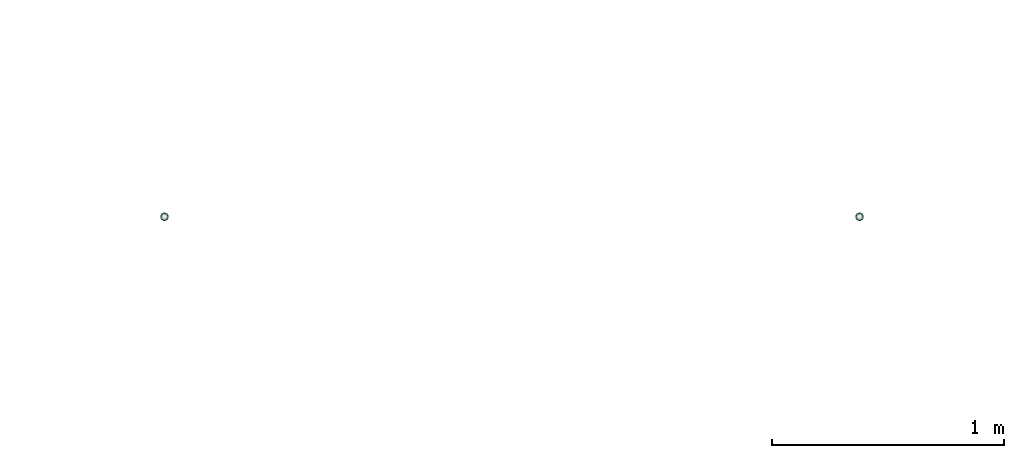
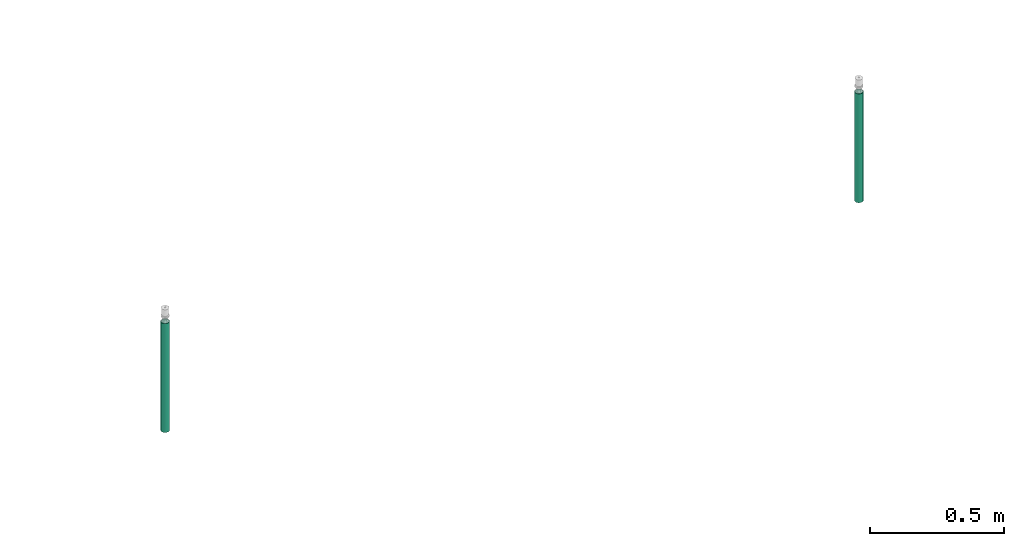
# One storey, part 40 of 44: 2 flow segments.
"""IFC2X3 building model written with IfcOpenShell, lengths in millimetres."""

from ifc_helpers import new_model, entity, si_unit, converted_unit, derived_unit, direction, frame, place, context, subcontext, project, spatial, faceted_brep, type_object, element, save


model = new_model("IFC2X3")

# Units and contexts
model_context = context("Model", 3, precision=0.01, world=frame((0.0, 4.29681676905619e-09, 0.0)), true_north=direction((4.01073788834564e-13, 1.0)))
plan_context = context("Plan", 3, precision=0.01, world=frame((0.0, 4.29681676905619e-09, 0.0)), true_north=direction((4.01073788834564e-13, 1.0)))
body_context = subcontext(model_context, "Body", "Model", "MODEL_VIEW")
ifc_project = project(units=[converted_unit("PLANEANGLEUNIT", "DEGREE", entity("IfcPositiveLengthMeasure", 0.0174532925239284), si_unit("PLANEANGLEUNIT", "RADIAN"), dimensions=[0, 0, 0, 0, 0, 0, 0]), si_unit("AREAUNIT", "SQUARE_METRE"), si_unit("LENGTHUNIT", "METRE", prefix="MILLI"), si_unit("MASSUNIT", "GRAM", prefix="KILO"), si_unit("POWERUNIT", "WATT"), si_unit("PRESSUREUNIT", "PASCAL"), si_unit("FORCEUNIT", "NEWTON", prefix="KILO"), si_unit("ELECTRICVOLTAGEUNIT", "VOLT"), si_unit("ELECTRICCURRENTUNIT", "AMPERE"), si_unit("THERMODYNAMICTEMPERATUREUNIT", "DEGREE_CELSIUS"), si_unit("TIMEUNIT", "SECOND"), si_unit("VOLUMEUNIT", "CUBIC_METRE"), derived_unit("LINEARVELOCITYUNIT", [(si_unit("LENGTHUNIT", "METRE"), 1), (si_unit("TIMEUNIT", "SECOND"), -1)]), derived_unit("VOLUMETRICFLOWRATEUNIT", [(si_unit("VOLUMEUNIT", "CUBIC_METRE"), 1), (si_unit("TIMEUNIT", "SECOND"), -1)]), derived_unit("THERMALTRANSMITTANCEUNIT", [(si_unit("POWERUNIT", "WATT"), 1), (si_unit("THERMODYNAMICTEMPERATUREUNIT", "KELVIN"), -1), (si_unit("AREAUNIT", "SQUARE_METRE"), -1)]), derived_unit("SOUNDPRESSUREUNIT", [(si_unit("PRESSUREUNIT", "PASCAL"), 1)])], contexts=[model_context, plan_context])

# Site, building, storey
site_placement = place(None, frame((0.0, -4.29681676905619e-09, 0.0), z_axis=(0.0, 0.0, 1.0), x_axis=(1.0, 0.0, 0.0)))
site = spatial("IfcSite", under=ifc_project, at=site_placement, CompositionType="ELEMENT")
building_placement = place(site_placement, frame((0.0, 4.29681676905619e-09, 0.0), z_axis=(0.0, 0.0, 1.0), x_axis=(1.0, 0.0, 0.0)))
building = spatial("IfcBuilding", under=site, at=building_placement, Name="mc-building", CompositionType="ELEMENT")
storey_placement = place(building_placement, frame((0.0, 0.0, 207370.0), z_axis=(0.0, 0.0, 1.0), x_axis=(1.0, 0.0, 0.0)))
storey = spatial("IfcBuildingStorey", under=building, at=storey_placement, Name="Nivå E", CompositionType="ELEMENT", Elevation=207370.0)

# Flow segments
pipe_segment_type = type_object("IfcPipeSegmentType", Name="Stålrør normaltykke", PredefinedType="RIGIDSEGMENT")
flow_segment_1_placement = place(storey_placement, frame((530500.0, 453009.83177, 3027.60555000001), z_axis=(1.0, 0.0, 0.0), x_axis=(0.0, 0.0, -1.0)))
element("IfcFlowSegment", 1, at=flow_segment_1_placement, inside=storey, type_object=pipe_segment_type, Name="Stålrør normaltykke", context=body_context, shape_type="Brep", body=[
    faceted_brep([(497.605550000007, 14.9, 0.0), (497.605550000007, 14.6736355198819, -2.58735784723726), (0.0, 14.6736355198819, -2.58735784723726), (0.0, 14.9, 0.0), (497.605550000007, 14.00142004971, -5.09610013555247), (0.0, 14.00142004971, -5.09610013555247), (497.605550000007, 12.9037785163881, -7.45000000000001), (0.0, 12.9037785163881, -7.45000000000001), (497.605550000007, 11.4140622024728, -9.57753538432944), (0.0, 11.4140622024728, -9.57753538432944), (497.605550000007, 9.57753538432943, -11.4140622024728), (0.0, 9.57753538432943, -11.4140622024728), (497.605550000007, 7.45, -12.9037785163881), (0.0, 7.45, -12.9037785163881), (497.605550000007, 5.09610013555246, -14.00142004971), (0.0, 5.09610013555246, -14.00142004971), (497.605550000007, 2.58735784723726, -14.6736355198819), (0.0, 2.58735784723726, -14.6736355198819), (497.605550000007, -2.73708559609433e-15, -14.9), (0.0, -2.73708559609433e-15, -14.9), (497.605550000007, -2.58735784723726, -14.6736355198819), (0.0, -2.58735784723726, -14.6736355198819), (497.605550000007, -5.09610013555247, -14.00142004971), (0.0, -5.09610013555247, -14.00142004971), (497.605550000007, -7.45000000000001, -12.9037785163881), (0.0, -7.45000000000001, -12.9037785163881), (497.605550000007, -9.57753538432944, -11.4140622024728), (0.0, -9.57753538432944, -11.4140622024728), (497.605550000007, -11.4140622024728, -9.57753538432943), (0.0, -11.4140622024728, -9.57753538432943), (497.605550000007, -12.9037785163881, -7.44999999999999), (0.0, -12.9037785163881, -7.44999999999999), (497.605550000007, -14.00142004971, -5.09610013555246), (0.0, -14.00142004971, -5.09610013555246), (497.605550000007, -14.6736355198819, -2.58735784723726), (0.0, -14.6736355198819, -2.58735784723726), (497.605550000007, -14.9, 1.82472373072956e-15), (0.0, -14.9, 1.82472373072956e-15), (497.605550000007, -14.6736355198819, 2.58735784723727), (0.0, -14.6736355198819, 2.58735784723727), (497.605550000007, -14.00142004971, 5.09610013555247), (0.0, -14.00142004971, 5.09610013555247), (497.605550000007, -12.9037785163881, 7.45), (0.0, -12.9037785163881, 7.45), (497.605550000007, -11.4140622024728, 9.57753538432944), (0.0, -11.4140622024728, 9.57753538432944), (497.605550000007, -9.57753538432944, 11.4140622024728), (0.0, -9.57753538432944, 11.4140622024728), (497.605550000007, -7.45, 12.9037785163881), (0.0, -7.45, 12.9037785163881), (497.605550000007, -5.09610013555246, 14.00142004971), (0.0, -5.09610013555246, 14.00142004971), (497.605550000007, -2.58735784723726, 14.6736355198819), (0.0, -2.58735784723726, 14.6736355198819), (497.605550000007, 9.12361865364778e-16, 14.9), (0.0, 9.12361865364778e-16, 14.9), (497.605550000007, 2.58735784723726, 14.6736355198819), (0.0, 2.58735784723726, 14.6736355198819), (497.605550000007, 5.09610013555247, 14.00142004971), (0.0, 5.09610013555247, 14.00142004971), (497.605550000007, 7.45, 12.9037785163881), (0.0, 7.45, 12.9037785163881), (497.605550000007, 9.57753538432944, 11.4140622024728), (0.0, 9.57753538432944, 11.4140622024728), (497.605550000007, 11.4140622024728, 9.57753538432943), (0.0, 11.4140622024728, 9.57753538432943), (497.605550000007, 12.9037785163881, 7.45), (0.0, 12.9037785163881, 7.45), (497.605550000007, 14.00142004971, 5.09610013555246), (0.0, 14.00142004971, 5.09610013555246), (497.605550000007, 14.6736355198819, 2.58735784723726), (0.0, 14.6736355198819, 2.58735784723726), (497.605550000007, 16.6432510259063, -2.93465420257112), (497.605550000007, 16.9, 0.0), (0.0, 16.9, 0.0), (0.0, 16.6432510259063, -2.93465420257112), (497.605550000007, 16.6432510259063, 2.93465420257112), (0.0, 16.6432510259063, 2.93465420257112), (497.605550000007, 15.8808052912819, 5.7801404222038), (0.0, 15.8808052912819, 5.7801404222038), (497.605550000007, 14.635829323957, 8.45), (0.0, 14.635829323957, 8.45), (497.605550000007, 12.9461510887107, 10.8631106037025), (0.0, 12.9461510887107, 10.8631106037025), (497.605550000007, 10.8631106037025, 12.9461510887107), (0.0, 10.8631106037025, 12.9461510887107), (497.605550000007, 8.45, 14.635829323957), (0.0, 8.45, 14.635829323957), (497.605550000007, 5.7801404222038, 15.8808052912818), (0.0, 5.7801404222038, 15.8808052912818), (497.605550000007, 2.93465420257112, 16.6432510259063), (0.0, 2.93465420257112, 16.6432510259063), (497.605550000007, 1.03482654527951e-15, 16.9), (0.0, 1.03482654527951e-15, 16.9), (497.605550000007, -2.93465420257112, 16.6432510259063), (0.0, -2.93465420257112, 16.6432510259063), (497.605550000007, -5.7801404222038, 15.8808052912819), (0.0, -5.7801404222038, 15.8808052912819), (497.605550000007, -8.45, 14.635829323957), (0.0, -8.45, 14.635829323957), (497.605550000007, -10.8631106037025, 12.9461510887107), (0.0, -10.8631106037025, 12.9461510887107), (497.605550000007, -12.9461510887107, 10.8631106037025), (0.0, -12.9461510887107, 10.8631106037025), (497.605550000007, -14.635829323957, 8.45), (0.0, -14.635829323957, 8.45), (497.605550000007, -15.8808052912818, 5.7801404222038), (0.0, -15.8808052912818, 5.7801404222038), (497.605550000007, -16.6432510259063, 2.93465420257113), (0.0, -16.6432510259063, 2.93465420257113), (497.605550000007, -16.9, 2.06965309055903e-15), (0.0, -16.9, 2.06965309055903e-15), (497.605550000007, -16.6432510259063, -2.93465420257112), (0.0, -16.6432510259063, -2.93465420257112), (497.605550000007, -15.8808052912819, -5.7801404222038), (0.0, -15.8808052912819, -5.7801404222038), (497.605550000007, -14.635829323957, -8.44999999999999), (0.0, -14.635829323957, -8.44999999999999), (497.605550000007, -12.9461510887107, -10.8631106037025), (0.0, -12.9461510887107, -10.8631106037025), (497.605550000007, -10.8631106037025, -12.9461510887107), (0.0, -10.8631106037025, -12.9461510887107), (497.605550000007, -8.45000000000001, -14.635829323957), (0.0, -8.45000000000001, -14.635829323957), (497.605550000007, -5.78014042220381, -15.8808052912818), (0.0, -5.78014042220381, -15.8808052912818), (497.605550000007, -2.93465420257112, -16.6432510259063), (0.0, -2.93465420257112, -16.6432510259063), (497.605550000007, -3.10447963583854e-15, -16.9), (0.0, -3.10447963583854e-15, -16.9), (497.605550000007, 2.93465420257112, -16.6432510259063), (0.0, 2.93465420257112, -16.6432510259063), (497.605550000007, 5.78014042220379, -15.8808052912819), (0.0, 5.78014042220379, -15.8808052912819), (497.605550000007, 8.45, -14.635829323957), (0.0, 8.45, -14.635829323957), (497.605550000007, 10.8631106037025, -12.9461510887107), (0.0, 10.8631106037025, -12.9461510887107), (497.605550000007, 12.9461510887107, -10.8631106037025), (0.0, 12.9461510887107, -10.8631106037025), (497.605550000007, 14.635829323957, -8.45000000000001), (0.0, 14.635829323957, -8.45000000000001), (497.605550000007, 15.8808052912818, -5.78014042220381), (0.0, 15.8808052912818, -5.78014042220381)], [[[0, 1, 2, 3]], [[1, 4, 5, 2]], [[4, 6, 7, 5]], [[6, 8, 9, 7]], [[8, 10, 11, 9]], [[10, 12, 13, 11]], [[12, 14, 15, 13]], [[14, 16, 17, 15]], [[16, 18, 19, 17]], [[18, 20, 21, 19]], [[20, 22, 23, 21]], [[22, 24, 25, 23]], [[24, 26, 27, 25]], [[26, 28, 29, 27]], [[28, 30, 31, 29]], [[30, 32, 33, 31]], [[32, 34, 35, 33]], [[34, 36, 37, 35]], [[36, 38, 39, 37]], [[38, 40, 41, 39]], [[40, 42, 43, 41]], [[42, 44, 45, 43]], [[44, 46, 47, 45]], [[46, 48, 49, 47]], [[48, 50, 51, 49]], [[50, 52, 53, 51]], [[52, 54, 55, 53]], [[54, 56, 57, 55]], [[56, 58, 59, 57]], [[58, 60, 61, 59]], [[60, 62, 63, 61]], [[62, 64, 65, 63]], [[64, 66, 67, 65]], [[66, 68, 69, 67]], [[68, 70, 71, 69]], [[70, 0, 3, 71]], [[72, 73, 74, 75]], [[73, 76, 77, 74]], [[76, 78, 79, 77]], [[78, 80, 81, 79]], [[80, 82, 83, 81]], [[82, 84, 85, 83]], [[84, 86, 87, 85]], [[86, 88, 89, 87]], [[88, 90, 91, 89]], [[90, 92, 93, 91]], [[92, 94, 95, 93]], [[94, 96, 97, 95]], [[96, 98, 99, 97]], [[98, 100, 101, 99]], [[100, 102, 103, 101]], [[102, 104, 105, 103]], [[104, 106, 107, 105]], [[106, 108, 109, 107]], [[108, 110, 111, 109]], [[110, 112, 113, 111]], [[112, 114, 115, 113]], [[114, 116, 117, 115]], [[116, 118, 119, 117]], [[118, 120, 121, 119]], [[120, 122, 123, 121]], [[122, 124, 125, 123]], [[124, 126, 127, 125]], [[126, 128, 129, 127]], [[128, 130, 131, 129]], [[130, 132, 133, 131]], [[132, 134, 135, 133]], [[134, 136, 137, 135]], [[136, 138, 139, 137]], [[138, 140, 141, 139]], [[140, 142, 143, 141]], [[142, 72, 75, 143]], [[75, 74, 77, 79, 81, 83, 85, 87, 89, 91, 93, 95, 97, 99, 101, 103, 105, 107, 109, 111, 113, 115, 117, 119, 121, 123, 125, 127, 129, 131, 133, 135, 137, 139, 141, 143], [3, 2, 5, 7, 9, 11, 13, 15, 17, 19, 21, 23, 25, 27, 29, 31, 33, 35, 37, 39, 41, 43, 45, 47, 49, 51, 53, 55, 57, 59, 61, 63, 65, 67, 69, 71]], [[142, 140, 138, 136, 134, 132, 130, 128, 126, 124, 122, 120, 118, 116, 114, 112, 110, 108, 106, 104, 102, 100, 98, 96, 94, 92, 90, 88, 86, 84, 82, 80, 78, 76, 73, 72], [70, 68, 66, 64, 62, 60, 58, 56, 54, 52, 50, 48, 46, 44, 42, 40, 38, 36, 34, 32, 30, 28, 26, 24, 22, 20, 18, 16, 14, 12, 10, 8, 6, 4, 1, 0]]], orient=[[False], [False], [False], [False], [False], [False], [False], [False], [False], [False], [False], [False], [False], [False], [False], [False], [False], [False], [False], [False], [False], [False], [False], [False], [False], [False], [False], [False], [False], [False], [False], [False], [False], [False], [False], [False], [False], [False], [False], [False], [False], [False], [False], [False], [False], [False], [False], [False], [False], [False], [False], [False], [False], [False], [False], [False], [False], [False], [False], [False], [False], [False], [False], [False], [False], [False], [False], [False], [False], [False], [False], [False], [False, False], [False, False]]),
])
flow_segment_2_placement = place(storey_placement, frame((527500.0, 453009.83177, 3027.60555000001), z_axis=(1.0, 0.0, 0.0), x_axis=(0.0, 0.0, -1.0)))
element("IfcFlowSegment", 2, at=flow_segment_2_placement, inside=storey, type_object=pipe_segment_type, Name="Stålrør normaltykke", context=body_context, shape_type="Brep", body=[
    faceted_brep([(497.605550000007, 14.9, 0.0), (497.605550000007, 14.6736355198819, -2.58735784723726), (0.0, 14.6736355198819, -2.58735784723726), (0.0, 14.9, 0.0), (497.605550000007, 14.00142004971, -5.09610013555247), (0.0, 14.00142004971, -5.09610013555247), (497.605550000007, 12.9037785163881, -7.45000000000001), (0.0, 12.9037785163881, -7.45000000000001), (497.605550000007, 11.4140622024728, -9.57753538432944), (0.0, 11.4140622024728, -9.57753538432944), (497.605550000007, 9.57753538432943, -11.4140622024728), (0.0, 9.57753538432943, -11.4140622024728), (497.605550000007, 7.45, -12.9037785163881), (0.0, 7.45, -12.9037785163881), (497.605550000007, 5.09610013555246, -14.00142004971), (0.0, 5.09610013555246, -14.00142004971), (497.605550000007, 2.58735784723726, -14.6736355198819), (0.0, 2.58735784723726, -14.6736355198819), (497.605550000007, -2.73708559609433e-15, -14.9), (0.0, -2.73708559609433e-15, -14.9), (497.605550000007, -2.58735784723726, -14.6736355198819), (0.0, -2.58735784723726, -14.6736355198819), (497.605550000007, -5.09610013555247, -14.00142004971), (0.0, -5.09610013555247, -14.00142004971), (497.605550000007, -7.45000000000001, -12.9037785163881), (0.0, -7.45000000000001, -12.9037785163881), (497.605550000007, -9.57753538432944, -11.4140622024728), (0.0, -9.57753538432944, -11.4140622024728), (497.605550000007, -11.4140622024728, -9.57753538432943), (0.0, -11.4140622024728, -9.57753538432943), (497.605550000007, -12.9037785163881, -7.44999999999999), (0.0, -12.9037785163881, -7.44999999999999), (497.605550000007, -14.00142004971, -5.09610013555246), (0.0, -14.00142004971, -5.09610013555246), (497.605550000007, -14.6736355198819, -2.58735784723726), (0.0, -14.6736355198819, -2.58735784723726), (497.605550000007, -14.9, 1.82472373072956e-15), (0.0, -14.9, 1.82472373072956e-15), (497.605550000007, -14.6736355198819, 2.58735784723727), (0.0, -14.6736355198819, 2.58735784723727), (497.605550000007, -14.00142004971, 5.09610013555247), (0.0, -14.00142004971, 5.09610013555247), (497.605550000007, -12.9037785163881, 7.45), (0.0, -12.9037785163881, 7.45), (497.605550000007, -11.4140622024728, 9.57753538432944), (0.0, -11.4140622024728, 9.57753538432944), (497.605550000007, -9.57753538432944, 11.4140622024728), (0.0, -9.57753538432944, 11.4140622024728), (497.605550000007, -7.45, 12.9037785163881), (0.0, -7.45, 12.9037785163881), (497.605550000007, -5.09610013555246, 14.00142004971), (0.0, -5.09610013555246, 14.00142004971), (497.605550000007, -2.58735784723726, 14.6736355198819), (0.0, -2.58735784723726, 14.6736355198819), (497.605550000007, 9.12361865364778e-16, 14.9), (0.0, 9.12361865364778e-16, 14.9), (497.605550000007, 2.58735784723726, 14.6736355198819), (0.0, 2.58735784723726, 14.6736355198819), (497.605550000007, 5.09610013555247, 14.00142004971), (0.0, 5.09610013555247, 14.00142004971), (497.605550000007, 7.45, 12.9037785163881), (0.0, 7.45, 12.9037785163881), (497.605550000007, 9.57753538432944, 11.4140622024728), (0.0, 9.57753538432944, 11.4140622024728), (497.605550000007, 11.4140622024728, 9.57753538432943), (0.0, 11.4140622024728, 9.57753538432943), (497.605550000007, 12.9037785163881, 7.45), (0.0, 12.9037785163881, 7.45), (497.605550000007, 14.00142004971, 5.09610013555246), (0.0, 14.00142004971, 5.09610013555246), (497.605550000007, 14.6736355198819, 2.58735784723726), (0.0, 14.6736355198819, 2.58735784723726), (497.605550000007, 16.6432510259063, -2.93465420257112), (497.605550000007, 16.9, 0.0), (0.0, 16.9, 0.0), (0.0, 16.6432510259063, -2.93465420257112), (497.605550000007, 16.6432510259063, 2.93465420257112), (0.0, 16.6432510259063, 2.93465420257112), (497.605550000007, 15.8808052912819, 5.7801404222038), (0.0, 15.8808052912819, 5.7801404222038), (497.605550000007, 14.635829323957, 8.45), (0.0, 14.635829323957, 8.45), (497.605550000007, 12.9461510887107, 10.8631106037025), (0.0, 12.9461510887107, 10.8631106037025), (497.605550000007, 10.8631106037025, 12.9461510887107), (0.0, 10.8631106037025, 12.9461510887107), (497.605550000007, 8.45, 14.635829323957), (0.0, 8.45, 14.635829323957), (497.605550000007, 5.7801404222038, 15.8808052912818), (0.0, 5.7801404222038, 15.8808052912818), (497.605550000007, 2.93465420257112, 16.6432510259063), (0.0, 2.93465420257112, 16.6432510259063), (497.605550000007, 1.03482654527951e-15, 16.9), (0.0, 1.03482654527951e-15, 16.9), (497.605550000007, -2.93465420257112, 16.6432510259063), (0.0, -2.93465420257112, 16.6432510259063), (497.605550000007, -5.7801404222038, 15.8808052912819), (0.0, -5.7801404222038, 15.8808052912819), (497.605550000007, -8.45, 14.635829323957), (0.0, -8.45, 14.635829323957), (497.605550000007, -10.8631106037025, 12.9461510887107), (0.0, -10.8631106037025, 12.9461510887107), (497.605550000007, -12.9461510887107, 10.8631106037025), (0.0, -12.9461510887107, 10.8631106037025), (497.605550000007, -14.635829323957, 8.45), (0.0, -14.635829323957, 8.45), (497.605550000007, -15.8808052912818, 5.7801404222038), (0.0, -15.8808052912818, 5.7801404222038), (497.605550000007, -16.6432510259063, 2.93465420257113), (0.0, -16.6432510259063, 2.93465420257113), (497.605550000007, -16.9, 2.06965309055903e-15), (0.0, -16.9, 2.06965309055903e-15), (497.605550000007, -16.6432510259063, -2.93465420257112), (0.0, -16.6432510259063, -2.93465420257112), (497.605550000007, -15.8808052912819, -5.7801404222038), (0.0, -15.8808052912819, -5.7801404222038), (497.605550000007, -14.635829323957, -8.44999999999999), (0.0, -14.635829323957, -8.44999999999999), (497.605550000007, -12.9461510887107, -10.8631106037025), (0.0, -12.9461510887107, -10.8631106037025), (497.605550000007, -10.8631106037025, -12.9461510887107), (0.0, -10.8631106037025, -12.9461510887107), (497.605550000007, -8.45000000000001, -14.635829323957), (0.0, -8.45000000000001, -14.635829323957), (497.605550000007, -5.78014042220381, -15.8808052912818), (0.0, -5.78014042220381, -15.8808052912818), (497.605550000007, -2.93465420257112, -16.6432510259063), (0.0, -2.93465420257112, -16.6432510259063), (497.605550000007, -3.10447963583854e-15, -16.9), (0.0, -3.10447963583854e-15, -16.9), (497.605550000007, 2.93465420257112, -16.6432510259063), (0.0, 2.93465420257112, -16.6432510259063), (497.605550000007, 5.78014042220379, -15.8808052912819), (0.0, 5.78014042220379, -15.8808052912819), (497.605550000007, 8.45, -14.635829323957), (0.0, 8.45, -14.635829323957), (497.605550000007, 10.8631106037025, -12.9461510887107), (0.0, 10.8631106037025, -12.9461510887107), (497.605550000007, 12.9461510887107, -10.8631106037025), (0.0, 12.9461510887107, -10.8631106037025), (497.605550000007, 14.635829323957, -8.45000000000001), (0.0, 14.635829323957, -8.45000000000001), (497.605550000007, 15.8808052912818, -5.78014042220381), (0.0, 15.8808052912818, -5.78014042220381)], [[[0, 1, 2, 3]], [[1, 4, 5, 2]], [[4, 6, 7, 5]], [[6, 8, 9, 7]], [[8, 10, 11, 9]], [[10, 12, 13, 11]], [[12, 14, 15, 13]], [[14, 16, 17, 15]], [[16, 18, 19, 17]], [[18, 20, 21, 19]], [[20, 22, 23, 21]], [[22, 24, 25, 23]], [[24, 26, 27, 25]], [[26, 28, 29, 27]], [[28, 30, 31, 29]], [[30, 32, 33, 31]], [[32, 34, 35, 33]], [[34, 36, 37, 35]], [[36, 38, 39, 37]], [[38, 40, 41, 39]], [[40, 42, 43, 41]], [[42, 44, 45, 43]], [[44, 46, 47, 45]], [[46, 48, 49, 47]], [[48, 50, 51, 49]], [[50, 52, 53, 51]], [[52, 54, 55, 53]], [[54, 56, 57, 55]], [[56, 58, 59, 57]], [[58, 60, 61, 59]], [[60, 62, 63, 61]], [[62, 64, 65, 63]], [[64, 66, 67, 65]], [[66, 68, 69, 67]], [[68, 70, 71, 69]], [[70, 0, 3, 71]], [[72, 73, 74, 75]], [[73, 76, 77, 74]], [[76, 78, 79, 77]], [[78, 80, 81, 79]], [[80, 82, 83, 81]], [[82, 84, 85, 83]], [[84, 86, 87, 85]], [[86, 88, 89, 87]], [[88, 90, 91, 89]], [[90, 92, 93, 91]], [[92, 94, 95, 93]], [[94, 96, 97, 95]], [[96, 98, 99, 97]], [[98, 100, 101, 99]], [[100, 102, 103, 101]], [[102, 104, 105, 103]], [[104, 106, 107, 105]], [[106, 108, 109, 107]], [[108, 110, 111, 109]], [[110, 112, 113, 111]], [[112, 114, 115, 113]], [[114, 116, 117, 115]], [[116, 118, 119, 117]], [[118, 120, 121, 119]], [[120, 122, 123, 121]], [[122, 124, 125, 123]], [[124, 126, 127, 125]], [[126, 128, 129, 127]], [[128, 130, 131, 129]], [[130, 132, 133, 131]], [[132, 134, 135, 133]], [[134, 136, 137, 135]], [[136, 138, 139, 137]], [[138, 140, 141, 139]], [[140, 142, 143, 141]], [[142, 72, 75, 143]], [[75, 74, 77, 79, 81, 83, 85, 87, 89, 91, 93, 95, 97, 99, 101, 103, 105, 107, 109, 111, 113, 115, 117, 119, 121, 123, 125, 127, 129, 131, 133, 135, 137, 139, 141, 143], [3, 2, 5, 7, 9, 11, 13, 15, 17, 19, 21, 23, 25, 27, 29, 31, 33, 35, 37, 39, 41, 43, 45, 47, 49, 51, 53, 55, 57, 59, 61, 63, 65, 67, 69, 71]], [[142, 140, 138, 136, 134, 132, 130, 128, 126, 124, 122, 120, 118, 116, 114, 112, 110, 108, 106, 104, 102, 100, 98, 96, 94, 92, 90, 88, 86, 84, 82, 80, 78, 76, 73, 72], [70, 68, 66, 64, 62, 60, 58, 56, 54, 52, 50, 48, 46, 44, 42, 40, 38, 36, 34, 32, 30, 28, 26, 24, 22, 20, 18, 16, 14, 12, 10, 8, 6, 4, 1, 0]]], orient=[[False], [False], [False], [False], [False], [False], [False], [False], [False], [False], [False], [False], [False], [False], [False], [False], [False], [False], [False], [False], [False], [False], [False], [False], [False], [False], [False], [False], [False], [False], [False], [False], [False], [False], [False], [False], [False], [False], [False], [False], [False], [False], [False], [False], [False], [False], [False], [False], [False], [False], [False], [False], [False], [False], [False], [False], [False], [False], [False], [False], [False], [False], [False], [False], [False], [False], [False], [False], [False], [False], [False], [False], [False, False], [False, False]]),
])

save(model, "model.ifc")
